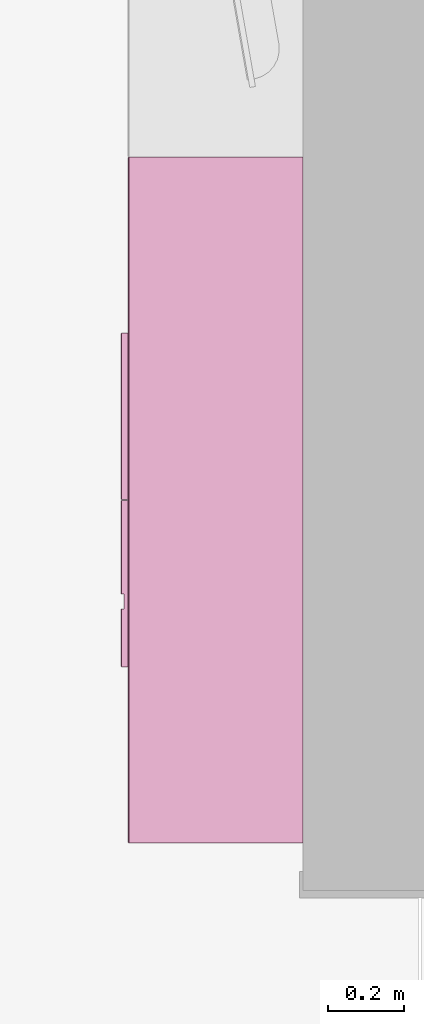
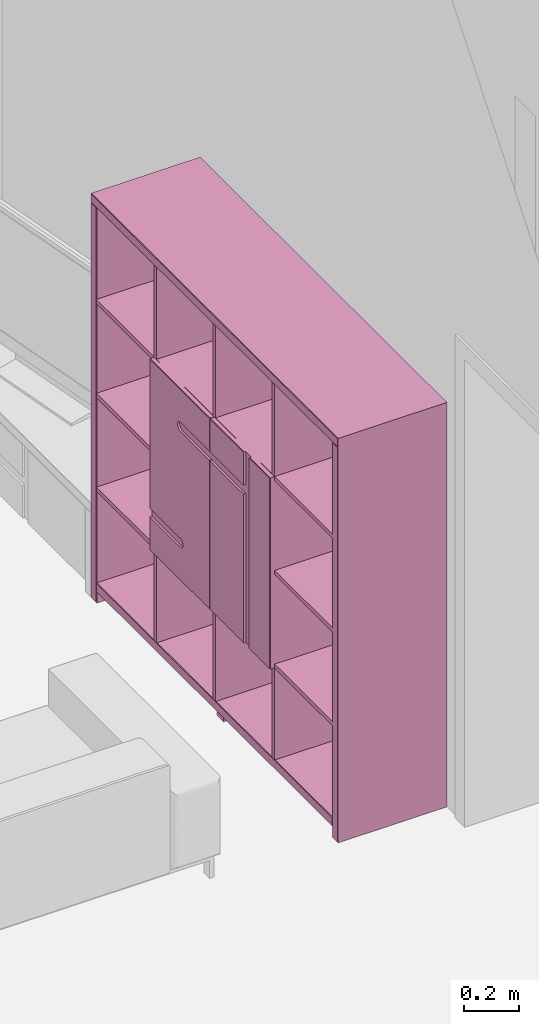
# One storey, part 36 of 40: 1 furnishing.
"""IFC2X3 building model written with IfcOpenShell, lengths in metres."""

from ifc_helpers import new_model, entity, si_unit, converted_unit, derived_unit, direction, frame, origin, place, context, subcontext, project, spatial, faceted_brep, source, transform, mapped, material, material_list, type_object, type_shapes, element, save


model = new_model("IFC2X3")

# Units and contexts
model_context = context("Model", 3, precision=1e-05, world=origin(), true_north=direction((6.12303176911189e-17, 1.0)))
body_context = subcontext(model_context, "Body", "Model", "MODEL_VIEW")
ifc_project = project(units=[si_unit("LENGTHUNIT", "METRE"), si_unit("AREAUNIT", "SQUARE_METRE"), si_unit("VOLUMEUNIT", "CUBIC_METRE"), converted_unit("PLANEANGLEUNIT", "DEGREE", entity("IfcRatioMeasure", 0.0174532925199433), si_unit("PLANEANGLEUNIT", "RADIAN"), dimensions=[0, 0, 0, 0, 0, 0, 0]), si_unit("MASSUNIT", "GRAM", prefix="KILO"), derived_unit("MASSDENSITYUNIT", [(si_unit("MASSUNIT", "GRAM", prefix="KILO"), 1), (si_unit("LENGTHUNIT", "METRE"), -3)]), si_unit("TIMEUNIT", "SECOND"), si_unit("FREQUENCYUNIT", "HERTZ"), si_unit("THERMODYNAMICTEMPERATUREUNIT", "DEGREE_CELSIUS"), derived_unit("THERMALTRANSMITTANCEUNIT", [(si_unit("MASSUNIT", "GRAM", prefix="KILO"), 1), (si_unit("THERMODYNAMICTEMPERATUREUNIT", "KELVIN"), -1), (si_unit("TIMEUNIT", "SECOND"), -3)]), derived_unit("VOLUMETRICFLOWRATEUNIT", [(si_unit("LENGTHUNIT", "METRE"), 3), (si_unit("TIMEUNIT", "SECOND"), -1)]), si_unit("ELECTRICCURRENTUNIT", "AMPERE"), si_unit("ELECTRICVOLTAGEUNIT", "VOLT"), si_unit("POWERUNIT", "WATT"), si_unit("FORCEUNIT", "NEWTON", prefix="KILO"), si_unit("ILLUMINANCEUNIT", "LUX"), si_unit("LUMINOUSFLUXUNIT", "LUMEN"), si_unit("LUMINOUSINTENSITYUNIT", "CANDELA"), derived_unit("USERDEFINED", [(si_unit("MASSUNIT", "GRAM", prefix="KILO"), -1), (si_unit("LENGTHUNIT", "METRE"), -2), (si_unit("TIMEUNIT", "SECOND"), 3), (si_unit("LUMINOUSFLUXUNIT", "LUMEN"), 1)]), derived_unit("LINEARVELOCITYUNIT", [(si_unit("LENGTHUNIT", "METRE"), 1), (si_unit("TIMEUNIT", "SECOND"), -1)]), si_unit("PRESSUREUNIT", "PASCAL"), derived_unit("USERDEFINED", [(si_unit("LENGTHUNIT", "METRE"), -2), (si_unit("MASSUNIT", "GRAM", prefix="KILO"), 1), (si_unit("TIMEUNIT", "SECOND"), -2)])], contexts=[model_context])

# Site, building, storey, space
site_placement = place(None, origin())
site = spatial("IfcSite", under=ifc_project, at=site_placement, Name="Surface", CompositionType="ELEMENT")
building_placement = place(site_placement, origin())
building = spatial("IfcBuilding", under=site, at=building_placement, CompositionType="ELEMENT")
storey_placement = place(building_placement, origin())
storey = spatial("IfcBuildingStorey", under=building, at=storey_placement, Name="RDC", CompositionType="ELEMENT", Elevation=-1.0941605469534e-13)
space_placement = place(storey_placement, origin())
space = spatial("IfcSpace", under=storey, at=space_placement, Name="13", CompositionType="ELEMENT", InteriorOrExteriorSpace="INTERNAL")

# Furnishing
ifc_material_1 = material(Name="Noir - Laqué")
ifc_material_2 = material(Name="Rouge - Laqué")
ifc_material_list_1 = material_list([ifc_material_1, ifc_material_2])
ifc_material_list_2 = material_list([ifc_material_1, ifc_material_2])
furniture_type = type_object("IfcFurnitureType", Name="1800 x 460 x 1800 mm", material=ifc_material_list_2)
shared_shape = source(origin(), body_context, "Body", "Brep", [
    faceted_brep([(0.025, 0.0, 0.0499999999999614), (-0.025, 0.0, 0.0499999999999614), (-0.025, -0.435000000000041, 0.0499999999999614), (0.025, -0.435000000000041, 0.0499999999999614), (0.025, 0.0, 0.0), (0.025, -0.435000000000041, 0.0), (-0.025, -0.435000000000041, 0.0), (-0.025, 0.0, 0.0)], [[[0, 1, 2, 3]], [[4, 5, 6, 7]], [[1, 0, 4, 7]], [[2, 1, 7, 6]], [[3, 2, 6, 5]], [[0, 3, 5, 4]]]),
    faceted_brep([(-0.439500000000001, -0.460000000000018, 0.498000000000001), (-0.439500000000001, -0.460000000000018, 0.09), (-0.420500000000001, -0.460000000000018, 0.09), (-0.420500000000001, -0.460000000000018, 0.498000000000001), (-0.00950000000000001, -0.460000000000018, 0.498000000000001), (-0.00950000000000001, -0.460000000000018, 0.09), (0.00950000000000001, -0.460000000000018, 0.09), (0.00950000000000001, -0.460000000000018, 0.498000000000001), (0.420499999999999, -0.460000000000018, 0.498000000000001), (0.420499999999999, -0.460000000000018, 0.09), (0.439499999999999, -0.460000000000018, 0.09), (0.439499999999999, -0.460000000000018, 0.498000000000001), (0.859999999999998, -0.460000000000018, 0.498000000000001), (0.859999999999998, -0.460000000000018, 0.517000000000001), (0.439499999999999, -0.460000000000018, 0.517000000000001), (0.439499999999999, -0.460000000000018, 0.915500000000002), (0.859999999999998, -0.460000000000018, 0.915500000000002), (0.859999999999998, -0.460000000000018, 0.934500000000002), (0.439499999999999, -0.460000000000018, 0.934500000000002), (0.439499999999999, -0.460000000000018, 1.333), (0.859999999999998, -0.460000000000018, 1.333), (0.859999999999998, -0.460000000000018, 1.352), (0.439499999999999, -0.460000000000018, 1.352), (0.439499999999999, -0.460000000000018, 1.76), (0.420499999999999, -0.460000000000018, 1.76), (0.420499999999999, -0.460000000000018, 1.352), (0.00950000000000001, -0.460000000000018, 1.352), (0.00950000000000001, -0.460000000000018, 1.76), (-0.00950000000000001, -0.460000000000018, 1.76), (-0.00950000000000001, -0.460000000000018, 1.352), (-0.420500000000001, -0.460000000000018, 1.352), (-0.420500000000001, -0.460000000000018, 1.76), (-0.439500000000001, -0.460000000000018, 1.76), (-0.439500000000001, -0.460000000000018, 1.352), (-0.860000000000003, -0.460000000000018, 1.352), (-0.860000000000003, -0.460000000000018, 1.333), (-0.439500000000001, -0.460000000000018, 1.333), (-0.439500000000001, -0.460000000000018, 0.934500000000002), (-0.860000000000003, -0.460000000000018, 0.934500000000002), (-0.860000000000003, -0.460000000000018, 0.915500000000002), (-0.439500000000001, -0.460000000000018, 0.915500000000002), (-0.439500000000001, -0.460000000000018, 0.517000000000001), (-0.860000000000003, -0.460000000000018, 0.517000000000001), (-0.860000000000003, -0.460000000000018, 0.498000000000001), (0.420499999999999, -0.460000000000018, 1.333), (0.420499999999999, -0.460000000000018, 0.517000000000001), (-0.420500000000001, -0.460000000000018, 0.517000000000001), (-0.420500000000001, -0.460000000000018, 1.333), (-0.439500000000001, 0.0, 0.498000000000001), (-0.860000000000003, 0.0, 0.498000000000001), (-0.860000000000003, 0.0, 0.517000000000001), (-0.439500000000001, 0.0, 0.517000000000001), (-0.439500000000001, 0.0, 0.915500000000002), (-0.860000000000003, 0.0, 0.915500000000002), (-0.860000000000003, 0.0, 0.934500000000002), (-0.439500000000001, 0.0, 0.934500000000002), (-0.439500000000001, 0.0, 1.333), (-0.860000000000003, 0.0, 1.333), (-0.860000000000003, 0.0, 1.352), (-0.439500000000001, 0.0, 1.352), (-0.439500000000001, 0.0, 1.76), (-0.420500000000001, 0.0, 1.76), (-0.420500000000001, 0.0, 1.352), (-0.00950000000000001, 0.0, 1.352), (-0.00950000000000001, 0.0, 1.76), (0.00950000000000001, 0.0, 1.76), (0.00950000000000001, 0.0, 1.352), (0.420499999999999, 0.0, 1.352), (0.420499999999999, 0.0, 1.76), (0.439499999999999, 0.0, 1.76), (0.439499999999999, 0.0, 1.352), (0.859999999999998, 0.0, 1.352), (0.859999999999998, 0.0, 1.333), (0.439499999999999, 0.0, 1.333), (0.439499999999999, 0.0, 0.934500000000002), (0.859999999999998, 0.0, 0.934500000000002), (0.859999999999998, 0.0, 0.915500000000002), (0.439499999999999, 0.0, 0.915500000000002), (0.439499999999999, 0.0, 0.517000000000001), (0.859999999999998, 0.0, 0.517000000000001), (0.859999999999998, 0.0, 0.498000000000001), (0.439499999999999, 0.0, 0.498000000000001), (0.439499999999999, 0.0, 0.09), (0.420499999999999, 0.0, 0.09), (0.420499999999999, 0.0, 0.498000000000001), (0.00950000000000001, 0.0, 0.498000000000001), (0.00950000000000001, 0.0, 0.09), (-0.00950000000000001, 0.0, 0.09), (-0.00950000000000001, 0.0, 0.498000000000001), (-0.420500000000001, 0.0, 0.498000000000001), (-0.420500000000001, 0.0, 0.09), (-0.439500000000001, 0.0, 0.09), (0.420499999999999, 0.0, 1.333), (-0.420500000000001, 0.0, 1.333), (-0.420500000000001, 0.0, 0.517000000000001), (0.420499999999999, 0.0, 0.517000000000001)], [[[0, 1, 2, 3, 4, 5, 6, 7, 8, 9, 10, 11, 12, 13, 14, 15, 16, 17, 18, 19, 20, 21, 22, 23, 24, 25, 26, 27, 28, 29, 30, 31, 32, 33, 34, 35, 36, 37, 38, 39, 40, 41, 42, 43], [44, 45, 46, 47]], [[48, 49, 50, 51, 52, 53, 54, 55, 56, 57, 58, 59, 60, 61, 62, 63, 64, 65, 66, 67, 68, 69, 70, 71, 72, 73, 74, 75, 76, 77, 78, 79, 80, 81, 82, 83, 84, 85, 86, 87, 88, 89, 90, 91], [92, 93, 94, 95]], [[1, 0, 48, 91]], [[2, 1, 91, 90]], [[3, 2, 90, 89]], [[4, 3, 89, 88]], [[5, 4, 88, 87]], [[6, 5, 87, 86]], [[7, 6, 86, 85]], [[8, 7, 85, 84]], [[9, 8, 84, 83]], [[10, 9, 83, 82]], [[11, 10, 82, 81]], [[12, 11, 81, 80]], [[13, 12, 80, 79]], [[14, 13, 79, 78]], [[15, 14, 78, 77]], [[16, 15, 77, 76]], [[17, 16, 76, 75]], [[18, 17, 75, 74]], [[19, 18, 74, 73]], [[20, 19, 73, 72]], [[21, 20, 72, 71]], [[22, 21, 71, 70]], [[23, 22, 70, 69]], [[24, 23, 69, 68]], [[25, 24, 68, 67]], [[26, 25, 67, 66]], [[27, 26, 66, 65]], [[28, 27, 65, 64]], [[29, 28, 64, 63]], [[30, 29, 63, 62]], [[31, 30, 62, 61]], [[32, 31, 61, 60]], [[33, 32, 60, 59]], [[34, 33, 59, 58]], [[35, 34, 58, 57]], [[36, 35, 57, 56]], [[37, 36, 56, 55]], [[38, 37, 55, 54]], [[39, 38, 54, 53]], [[40, 39, 53, 52]], [[41, 40, 52, 51]], [[42, 41, 51, 50]], [[43, 42, 50, 49]], [[0, 43, 49, 48]], [[45, 44, 92, 95]], [[46, 45, 95, 94]], [[47, 46, 94, 93]], [[44, 47, 93, 92]]]),
    faceted_brep([(0.435878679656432, -0.479000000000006, 0.501621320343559), (0.435878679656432, -0.479000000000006, 1.34837867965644), (0.286666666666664, -0.479000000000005, 1.34837867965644), (0.286666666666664, -0.479000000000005, 0.501621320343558), (0.437999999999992, -0.460000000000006, 1.3505), (0.437999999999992, -0.460000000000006, 0.499499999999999), (0.000999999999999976, -0.460000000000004, 0.499499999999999), (0.001, -0.460000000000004, 1.3505), (0.437999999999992, -0.476878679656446, 1.3505), (0.437999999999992, -0.476878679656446, 0.499499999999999), (0.286666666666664, -0.476878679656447, 0.499499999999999), (0.286666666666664, -0.470000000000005, 0.499499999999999), (0.246666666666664, -0.470000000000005, 0.499499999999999), (0.246666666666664, -0.476878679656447, 0.499499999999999), (0.000999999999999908, -0.476878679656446, 0.499499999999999), (0.000999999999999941, -0.476878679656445, 1.16333333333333), (0.000999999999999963, -0.470000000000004, 1.16333333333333), (0.000999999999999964, -0.470000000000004, 1.20333333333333), (0.000999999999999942, -0.476878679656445, 1.20333333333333), (0.000999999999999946, -0.476878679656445, 1.3505), (0.246666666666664, -0.476878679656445, 1.3505), (0.246666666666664, -0.470000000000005, 1.3505), (0.286666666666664, -0.470000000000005, 1.3505), (0.286666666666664, -0.476878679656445, 1.3505), (0.00312132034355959, -0.479000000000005, 0.501621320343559), (0.246666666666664, -0.479000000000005, 0.501621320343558), (0.00312132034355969, -0.479000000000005, 1.34837867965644), (0.00312132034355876, -0.479000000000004, 1.20333333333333), (0.246666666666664, -0.470000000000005, 1.16333333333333), (0.246666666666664, -0.479000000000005, 1.16333333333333), (0.246666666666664, -0.470000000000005, 1.20333333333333), (0.246666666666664, -0.479000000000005, 1.34837867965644), (0.246666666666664, -0.479000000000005, 1.20333333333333), (0.00312132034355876, -0.479000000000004, 1.16333333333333)], [[[0, 1, 2, 3]], [[4, 5, 6, 7]], [[5, 4, 8, 9]], [[6, 5, 9, 10, 11, 12, 13, 14]], [[7, 6, 14, 15, 16, 17, 18, 19]], [[4, 7, 19, 20, 21, 22, 23, 8]], [[24, 14, 13, 25]], [[0, 9, 8, 1]], [[1, 8, 23, 2]], [[26, 19, 18, 27]], [[12, 28, 29, 25, 13]], [[22, 11, 10, 3, 2, 23]], [[30, 21, 20, 31, 32]], [[17, 30, 32, 27, 18]], [[28, 16, 15, 33, 29]], [[16, 28, 12, 11, 22, 21, 30, 17]], [[14, 24, 33, 15]], [[19, 26, 31, 20]], [[9, 0, 3, 10]], [[24, 25, 29, 33]], [[31, 26, 27, 32]]]),
    faceted_brep([(-0.00312132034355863, -0.479000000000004, 0.501621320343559), (-0.00312132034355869, -0.479000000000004, 1.16333333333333), (-0.215000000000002, -0.479000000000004, 1.16333333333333), (-0.220176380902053, -0.479000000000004, 1.16401481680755), (-0.225000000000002, -0.479000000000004, 1.16601282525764), (-0.229142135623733, -0.479000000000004, 1.1691911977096), (-0.232320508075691, -0.479000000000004, 1.17333333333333), (-0.234318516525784, -0.479000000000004, 1.17815695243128), (-0.235000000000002, -0.479000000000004, 1.18333333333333), (-0.234318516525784, -0.479000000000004, 1.18850971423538), (-0.232320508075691, -0.479000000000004, 1.19333333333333), (-0.229142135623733, -0.479000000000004, 1.19747546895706), (-0.225000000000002, -0.479000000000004, 1.20065384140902), (-0.220176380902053, -0.479000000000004, 1.20265184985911), (-0.215000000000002, -0.479000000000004, 1.20333333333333), (-0.0031213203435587, -0.479000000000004, 1.20333333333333), (-0.00312132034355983, -0.479000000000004, 1.34837867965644), (-0.435878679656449, -0.479000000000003, 1.34837867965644), (-0.435878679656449, -0.479000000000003, 0.686666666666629), (-0.215000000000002, -0.479000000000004, 0.686666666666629), (-0.209823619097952, -0.479000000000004, 0.68598518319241), (-0.205000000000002, -0.479000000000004, 0.683987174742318), (-0.200857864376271, -0.479000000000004, 0.68080880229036), (-0.197679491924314, -0.479000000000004, 0.676666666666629), (-0.195681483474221, -0.479000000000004, 0.671843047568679), (-0.195000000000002, -0.479000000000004, 0.666666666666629), (-0.195681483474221, -0.479000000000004, 0.661490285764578), (-0.197679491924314, -0.479000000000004, 0.656666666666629), (-0.200857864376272, -0.479000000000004, 0.652524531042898), (-0.205000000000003, -0.479000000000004, 0.64934615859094), (-0.209823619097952, -0.479000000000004, 0.647348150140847), (-0.215000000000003, -0.479000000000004, 0.646666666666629), (-0.435878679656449, -0.479000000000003, 0.646666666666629), (-0.435878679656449, -0.479000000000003, 0.501621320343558), (-0.438000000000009, -0.460000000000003, 1.3505), (-0.000999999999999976, -0.460000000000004, 1.3505), (-0.001, -0.460000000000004, 0.499499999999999), (-0.438000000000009, -0.460000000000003, 0.499499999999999), (-0.00100000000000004, -0.476878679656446, 1.20333333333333), (-0.00100000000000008, -0.476878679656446, 1.3505), (-0.00100000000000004, -0.476878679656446, 1.16333333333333), (-0.00100000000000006, -0.476878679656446, 0.499499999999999), (-0.438000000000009, -0.476878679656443, 0.646666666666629), (-0.438000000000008, -0.476878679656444, 0.499499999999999), (-0.438000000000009, -0.476878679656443, 0.686666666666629), (-0.438000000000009, -0.476878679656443, 1.3505), (-0.197679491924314, -0.470000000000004, 0.676666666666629), (-0.200857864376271, -0.470000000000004, 0.68080880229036), (-0.205000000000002, -0.470000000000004, 0.683987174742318), (-0.209823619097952, -0.470000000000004, 0.68598518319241), (-0.215000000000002, -0.470000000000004, 0.686666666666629), (-0.438000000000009, -0.470000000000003, 0.686666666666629), (-0.438000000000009, -0.470000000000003, 0.646666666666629), (-0.215000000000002, -0.470000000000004, 0.646666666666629), (-0.209823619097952, -0.470000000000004, 0.647348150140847), (-0.205000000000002, -0.470000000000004, 0.64934615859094), (-0.200857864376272, -0.470000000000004, 0.652524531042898), (-0.197679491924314, -0.470000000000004, 0.656666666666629), (-0.195681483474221, -0.470000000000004, 0.661490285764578), (-0.195000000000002, -0.470000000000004, 0.666666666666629), (-0.195681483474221, -0.470000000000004, 0.671843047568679), (-0.220176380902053, -0.470000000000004, 1.20265184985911), (-0.225000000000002, -0.470000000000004, 1.20065384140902), (-0.229142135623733, -0.470000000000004, 1.19747546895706), (-0.232320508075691, -0.470000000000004, 1.19333333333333), (-0.234318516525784, -0.470000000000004, 1.18850971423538), (-0.235000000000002, -0.470000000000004, 1.18333333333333), (-0.234318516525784, -0.470000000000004, 1.17815695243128), (-0.232320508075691, -0.470000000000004, 1.17333333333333), (-0.229142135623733, -0.470000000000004, 1.1691911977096), (-0.225000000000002, -0.470000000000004, 1.16601282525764), (-0.220176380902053, -0.470000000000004, 1.16401481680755), (-0.215000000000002, -0.470000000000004, 1.16333333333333), (-0.00100000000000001, -0.470000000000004, 1.16333333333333), (-0.00100000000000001, -0.470000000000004, 1.20333333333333), (-0.215000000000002, -0.470000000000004, 1.20333333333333)], [[[0, 1, 2, 3, 4, 5, 6, 7, 8, 9, 10, 11, 12, 13, 14, 15, 16, 17, 18, 19, 20, 21, 22, 23, 24, 25, 26, 27, 28, 29, 30, 31, 32, 33]], [[34, 35, 36, 37]], [[16, 15, 38, 39]], [[40, 1, 0, 41]], [[33, 32, 42, 43]], [[44, 18, 17, 45]], [[46, 47, 48, 49, 50, 51, 52, 53, 54, 55, 56, 57, 58, 59, 60]], [[61, 62, 63, 64, 65, 66, 67, 68, 69, 70, 71, 72, 73, 74, 75]], [[75, 74, 38, 15, 14]], [[35, 39, 38, 74, 73, 40, 41, 36]], [[37, 36, 41, 43]], [[37, 43, 42, 52, 51, 44, 45, 34]], [[35, 34, 45, 39]], [[0, 33, 43, 41]], [[17, 16, 39, 45]], [[72, 2, 1, 40, 73]], [[75, 14, 13, 61]], [[61, 13, 12, 62]], [[64, 63, 11, 10]], [[11, 63, 62, 12]], [[65, 64, 10, 9]], [[65, 9, 8, 66]], [[66, 8, 7, 67]], [[67, 7, 6, 68]], [[70, 69, 5, 4]], [[5, 69, 68, 6]], [[71, 70, 4, 3]], [[71, 3, 2, 72]], [[50, 19, 18, 44, 51]], [[53, 52, 42, 32, 31]], [[29, 55, 54, 30]], [[30, 54, 53, 31]], [[26, 58, 57, 27]], [[27, 57, 56, 28]], [[28, 56, 55, 29]], [[58, 26, 25, 59]], [[22, 47, 46, 23]], [[23, 46, 60, 24]], [[19, 50, 49, 20]], [[20, 49, 48, 21]], [[21, 48, 47, 22]], [[59, 25, 24, 60]]]),
    faceted_brep([(-0.857878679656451, -0.460000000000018, 0.0521213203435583), (0.857878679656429, -0.460000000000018, 0.0521213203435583), (0.85787867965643, -0.460000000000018, 0.0878786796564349), (-0.857878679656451, -0.460000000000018, 0.0878786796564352), (0.859999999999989, 0.0, 0.0499999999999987), (-0.860000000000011, 0.0, 0.0499999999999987), (-0.860000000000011, 0.0, 0.0899999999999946), (0.859999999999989, 0.0, 0.0899999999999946), (0.859999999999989, -0.457878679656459, 0.0899999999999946), (0.859999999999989, -0.457878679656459, 0.0499999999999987), (-0.860000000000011, -0.457878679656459, 0.0899999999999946), (-0.860000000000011, -0.457878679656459, 0.0499999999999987)], [[[0, 1, 2, 3]], [[4, 5, 6, 7]], [[4, 7, 8, 9]], [[7, 6, 10, 8]], [[6, 5, 11, 10]], [[5, 4, 9, 11]], [[9, 1, 0, 11]], [[1, 9, 8, 2]], [[2, 8, 10, 3]], [[11, 0, 3, 10]]]),
    faceted_brep([(0.899999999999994, 0.0, 1.76), (0.859999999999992, 0.0, 1.76), (0.859999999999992, -0.457878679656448, 1.76), (0.899999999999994, -0.457878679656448, 1.76), (0.859999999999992, 0.0, 0.0), (0.899999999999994, 0.0, 0.0), (0.899999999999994, -0.457878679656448, 0.0), (0.859999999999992, -0.457878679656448, 0.0), (0.859999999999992, -0.457878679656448, 0.0499999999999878), (0.859999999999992, -0.457878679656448, 0.0900000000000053), (0.862121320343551, -0.460000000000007, 0.00212132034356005), (0.897878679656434, -0.460000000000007, 0.00212132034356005), (0.897878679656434, -0.460000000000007, 1.75787867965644), (0.862121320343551, -0.460000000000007, 1.75787867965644)], [[[0, 1, 2, 3]], [[4, 5, 6, 7]], [[1, 0, 5, 4]], [[1, 4, 7, 8, 9, 2]], [[10, 11, 12, 13]], [[5, 0, 3, 6]], [[6, 11, 10, 7]], [[11, 6, 3, 12]], [[12, 3, 2, 13]], [[7, 10, 13, 2, 9, 8]]]),
    faceted_brep([(-0.860000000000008, 0.0, 0.0), (-0.860000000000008, 0.0, 1.76), (-0.860000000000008, -0.457878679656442, 1.76), (-0.860000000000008, -0.457878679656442, 0.0900000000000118), (-0.860000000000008, -0.457878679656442, 0.0499999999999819), (-0.860000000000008, -0.457878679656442, 0.0), (-0.900000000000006, 0.0, 1.76), (-0.900000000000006, 0.0, 0.0), (-0.900000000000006, -0.457878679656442, 0.0), (-0.900000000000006, -0.457878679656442, 1.76), (-0.897878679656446, -0.460000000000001, 0.00212132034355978), (-0.862121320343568, -0.460000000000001, 0.00212132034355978), (-0.862121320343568, -0.460000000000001, 1.75787867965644), (-0.897878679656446, -0.460000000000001, 1.75787867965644)], [[[0, 1, 2, 3, 4, 5]], [[6, 1, 0, 7]], [[6, 7, 8, 9]], [[10, 11, 12, 13]], [[5, 11, 10, 8]], [[11, 5, 4, 3, 2, 12]], [[12, 2, 9, 13]], [[8, 10, 13, 9]], [[7, 0, 5, 8]], [[1, 6, 9, 2]]]),
    faceted_brep([(-0.897878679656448, -0.460000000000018, 1.76212132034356), (0.897878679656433, -0.460000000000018, 1.76212132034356), (0.897878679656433, -0.460000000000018, 1.79787867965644), (-0.897878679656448, -0.460000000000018, 1.79787867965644), (0.899999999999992, 0.0, 1.8), (0.899999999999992, 0.0, 1.76), (-0.900000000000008, 0.0, 1.76), (-0.900000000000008, 0.0, 1.8), (-0.900000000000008, -0.457878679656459, 1.8), (0.899999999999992, -0.457878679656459, 1.8), (-0.900000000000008, -0.457878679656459, 1.76), (0.899999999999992, -0.457878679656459, 1.76)], [[[0, 1, 2, 3]], [[4, 5, 6, 7]], [[4, 7, 8, 9]], [[7, 6, 10, 8]], [[6, 5, 11, 10]], [[5, 4, 9, 11]], [[11, 1, 0, 10]], [[1, 11, 9, 2]], [[2, 9, 8, 3]], [[10, 0, 3, 8]]]),
])
type_shapes(furniture_type, [shared_shape])
furnishing_placement = place(space_placement, frame((9.4675111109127, 5.20201067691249, 0.0), z_axis=(0.0, 0.0, 1.0), x_axis=(0.0, -1.0, 0.0)))
element("IfcFurnishingElement", 1, at=furnishing_placement, inside=space, type_object=furniture_type, material=ifc_material_list_1, Name="Bibliothèque - Type adolescent:1800 x 460 x 1800 mm", ObjectType="1800 x 460 x 1800 mm", context=body_context, shape_type="MappedRepresentation", body=[
    mapped(shared_shape, transform((0.0, 0.0, 0.0), scale=1.0)),
])

save(model, "model.ifc")
